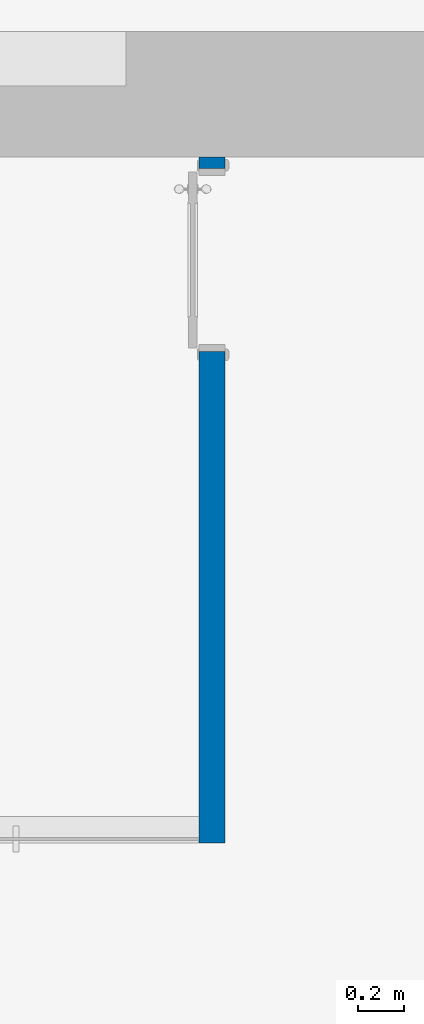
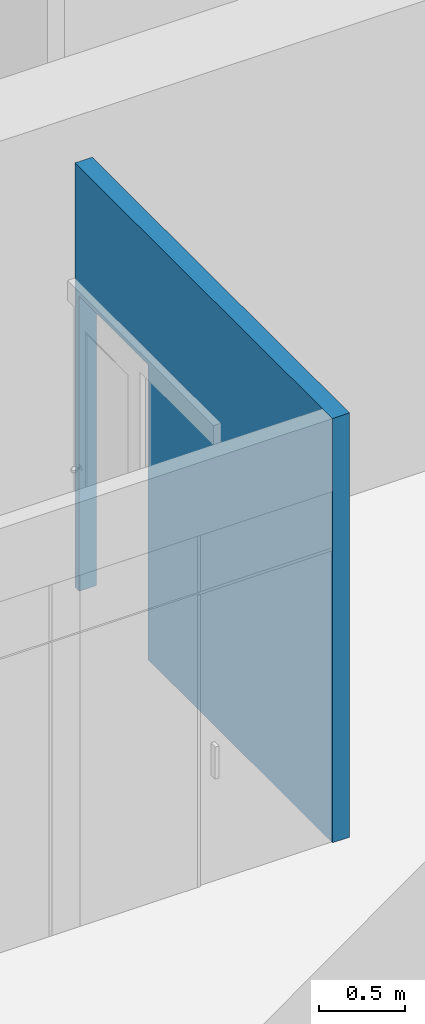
# One storey, part 23 of 49: 1 wall, 1 opening.
"""IFC2X3 building model written with IfcOpenShell, lengths in millimetres."""

import ifcopenshell
import ifcopenshell.guid

model = None  # the IFC model being written
_history = None  # IfcOwnerHistory: only IFC2X3 demands one
_inside = {}  # id of a spatial element -> (the spatial element, [elements in it])
_under = {}  # id of a project, library or spatial element -> (it, [spatial elements below it])
_declared = {}  # id of a project -> (the project, [libraries it declares])
_typed = {}  # id of a type object -> (the type object, [elements of that type])
_made_of = {}  # id of a material, layer set ... -> (it, [elements and type objects made of it])


def new_model(schema):
    """Start an empty IFC model of exactly this schema.

    Asked for "IFC4X3", IfcOpenShell would pick the latest addendum, in which some entities
    have other attributes; the version numbers below select the first issue.
    IFC2X3 requires an IfcOwnerHistory on every rooted entity: one is made here for all.
    """
    global model, _history
    if schema == "IFC4X3":
        model = ifcopenshell.file(schema_version=(4, 3, 0, 0))
    else:
        model = ifcopenshell.file(schema=schema)
    _inside.clear()
    _under.clear()
    _declared.clear()
    _typed.clear()
    _made_of.clear()
    _history = None
    if model.schema == "IFC2X3":
        org = make("IfcOrganization", Name="unknown")
        user = make(
            "IfcPersonAndOrganization",
            ThePerson=make("IfcPerson", FamilyName="unknown"),
            TheOrganization=org,
        )
        app = make(
            "IfcApplication",
            ApplicationDeveloper=org,
            Version="unknown",
            ApplicationFullName="unknown",
            ApplicationIdentifier="unknown",
        )
        _history = make(
            "IfcOwnerHistory",
            OwningUser=user,
            OwningApplication=app,
            ChangeAction="ADDED",
            CreationDate=0,
        )
    return model


def make(cls, **values):
    """One entity of the class cls with the attributes given. An attribute that is None is left unset."""
    return model.create_entity(
        cls, **{name: value for name, value in values.items() if value is not None}
    )


def entity(cls, *values):
    """Any entity or typed value of the class cls, its attributes in the order of the schema. None: left unset."""
    e = model.create_entity(cls)
    for i, value in enumerate(values):
        if value is not None:
            e[i] = value
    return e


def rooted(cls, **values):
    """An entity with a GlobalId (a new one), such as an element, a storey or a relation."""
    return make(cls, GlobalId=ifcopenshell.guid.new(), OwnerHistory=_history, **values)


def si_unit(unit_type, name, prefix=None):
    """IfcSIUnit, for example si_unit("LENGTHUNIT", "METRE", prefix="MILLI")."""
    return make("IfcSIUnit", UnitType=unit_type, Prefix=prefix, Name=name)


def converted_unit(unit_type, name, factor, base, dimensions=None, offset=None):
    """IfcConversionBasedUnit, such as the inch: factor (a typed value) times the base unit."""
    return make(
        "IfcConversionBasedUnit"
        if offset is None
        else "IfcConversionBasedUnitWithOffset",
        ConversionOffset=offset,
        Dimensions=None
        if dimensions is None
        else entity("IfcDimensionalExponents", *dimensions),
        UnitType=unit_type,
        Name=name,
        ConversionFactor=make(
            "IfcMeasureWithUnit", ValueComponent=factor, UnitComponent=base
        ),
    )


def derived_unit(unit_type, elements):
    """IfcDerivedUnit: a product of units, each with its exponent."""
    return make(
        "IfcDerivedUnit",
        Elements=[
            make("IfcDerivedUnitElement", Unit=unit, Exponent=power)
            for unit, power in elements
        ],
        UnitType=unit_type,
    )


def assignment(units):
    """IfcUnitAssignment: the units of a project."""
    return None if units is None else make("IfcUnitAssignment", Units=units)


def point(xyz):
    """IfcCartesianPoint."""
    return None if xyz is None else make("IfcCartesianPoint", Coordinates=xyz)


def direction(xyz):
    """IfcDirection."""
    return None if xyz is None else make("IfcDirection", DirectionRatios=xyz)


def frame(location, z_axis=None, x_axis=None):
    """IfcAxis2Placement3D, a coordinate frame: its origin and axes. An axis left out is left unset."""
    return make(
        "IfcAxis2Placement3D",
        Location=point(location),
        Axis=direction(z_axis),
        RefDirection=direction(x_axis),
    )


def frame_2d(location, x_axis=None):
    """IfcAxis2Placement2D, a coordinate frame in the plane: its origin and x axis."""
    return make(
        "IfcAxis2Placement2D", Location=point(location), RefDirection=direction(x_axis)
    )


def origin():
    """The frame at (0, 0, 0) with its axes left unset."""
    return frame((0.0, 0.0, 0.0))


def place(relative_to, where):
    """IfcLocalPlacement: puts the frame where relative to a parent placement (None: the world)."""
    return make(
        "IfcLocalPlacement", PlacementRelTo=relative_to, RelativePlacement=where
    )


def context(
    kind, dimensions, precision=None, world=None, true_north=None, identifier=None
):
    """IfcGeometricRepresentationContext, for example the 3D "Model" context."""
    return make(
        "IfcGeometricRepresentationContext",
        ContextIdentifier=identifier,
        ContextType=kind,
        CoordinateSpaceDimension=dimensions,
        Precision=precision,
        WorldCoordinateSystem=world,
        TrueNorth=true_north,
    )


def subcontext(parent, identifier, kind, view, scale=None):
    """IfcGeometricRepresentationSubContext, for example "Body" below "Model"."""
    return make(
        "IfcGeometricRepresentationSubContext",
        ContextIdentifier=identifier,
        ContextType=kind,
        ParentContext=parent,
        TargetScale=scale,
        TargetView=view,
    )


def project(units=None, contexts=None):
    """IfcProject with its units and contexts."""
    return rooted(
        "IfcProject",
        Name="project",
        RepresentationContexts=contexts,
        UnitsInContext=assignment(units),
    )


def spatial(cls, under=None, at=None, **own):
    """A site, building, storey or space (cls), placed at a placement, below another one or the project."""
    s = rooted(cls, ObjectPlacement=at, **own)
    if under is not None:
        _under.setdefault(under.id(), (under, []))[1].append(s)
    return s


def profile(cls, at=None, kind="AREA", **sizes):
    """A parametric profile (cls). Its sizes go by their IFC names, for example OverallWidth=200.0."""
    return make(cls, ProfileType=kind, Position=at, **sizes)


def rectangle(**sizes):
    """IfcRectangleProfileDef."""
    return profile("IfcRectangleProfileDef", **sizes)


def extrude(swept, where, along, depth):
    """IfcExtrudedAreaSolid: the profile swept, set in the frame where, extruded along a direction by depth."""
    return make(
        "IfcExtrudedAreaSolid",
        SweptArea=swept,
        Position=where,
        ExtrudedDirection=direction(along),
        Depth=depth,
    )


def shape(context_of_items, identifier, shape_type, items):
    """IfcShapeRepresentation: the items that make up one representation, for example the "Body"."""
    return make(
        "IfcShapeRepresentation",
        ContextOfItems=context_of_items,
        RepresentationIdentifier=identifier,
        RepresentationType=shape_type,
        Items=items,
    )


def material(Name=None, Category=None):
    """IfcMaterial."""
    return make("IfcMaterial", Name=Name, Category=Category)


def layer(
    of_material, thickness, ventilated=None, Name=None, Category=None, Priority=None
):
    """IfcMaterialLayer: one layer of a wall or slab, of a material (None: an air gap)."""
    return make(
        "IfcMaterialLayer",
        Material=of_material,
        LayerThickness=thickness,
        IsVentilated=ventilated,
        Name=Name,
        Category=Category,
        Priority=Priority,
    )


def layer_set(layers, Name=None):
    """IfcMaterialLayerSet."""
    return make("IfcMaterialLayerSet", MaterialLayers=layers, LayerSetName=Name)


def layer_usage(for_layer_set, set_direction, sense, offset, extent=None):
    """IfcMaterialLayerSetUsage: how a layer set lies in its element."""
    return make(
        "IfcMaterialLayerSetUsage",
        ForLayerSet=for_layer_set,
        LayerSetDirection=set_direction,
        DirectionSense=sense,
        OffsetFromReferenceLine=offset,
        ReferenceExtent=extent,
    )


def made_of(thing, what):
    """Note that an element or type object is made of a material, layer set ...; save() writes the relation."""
    if what is not None:
        _made_of.setdefault(what.id(), (what, []))[1].append(thing)
    return thing


def type_object(cls, material=None, **own):
    """A type object (cls), such as IfcWallType, which elements share."""
    return made_of(rooted(cls, **own), material)


def element(
    cls,
    number,
    at=None,
    inside=None,
    cuts=None,
    type_object=None,
    material=None,
    context=None,
    identifier="Body",
    shape_type=None,
    held_by="IfcProductDefinitionShape",
    body=None,
    shapes=None,
    **own,
):
    """One element of the class cls, such as IfcWall. Its Tag is "e" and its number.

    at: its placement. inside: the storey or other place that contains it. cuts: it is an
    opening in that element (IfcRelVoidsElement). A single representation is given by context,
    identifier, shape_type and body (its items); several are given by shapes. held_by: the class
    of the entity that holds the representations. save() writes the other relations.
    """
    e = rooted(cls, Tag="e%d" % number, ObjectPlacement=at, **own)
    if body is not None:
        shapes = [shape(context, identifier, shape_type, body)]
    if shapes is not None:
        e.Representation = make(held_by, Representations=shapes)
    if inside is not None:
        _inside.setdefault(inside.id(), (inside, []))[1].append(e)
    if cuts is not None:
        rooted(
            "IfcRelVoidsElement", RelatingBuildingElement=cuts, RelatedOpeningElement=e
        )
    if type_object is not None:
        _typed.setdefault(type_object.id(), (type_object, []))[1].append(e)
    return made_of(e, material)


def aggregate(whole, parts):
    """IfcRelAggregates: a whole, such as a stair, and the parts it consists of."""
    return rooted("IfcRelAggregates", RelatingObject=whole, RelatedObjects=parts)


def save(model, path):
    """Write the relations noted so far, then the file.

    IfcRelAggregates (storeys below a building ...), IfcRelContainedInSpatialStructure (elements
    in a storey), IfcRelDefinesByType, IfcRelAssociatesMaterial and IfcRelDeclares: one each for
    every whole, place, type object, material and project.
    """
    for whole, parts in _under.values():
        aggregate(whole, parts)
    for where, things in _inside.values():
        rooted(
            "IfcRelContainedInSpatialStructure",
            RelatedElements=things,
            RelatingStructure=where,
        )
    for kind, things in _typed.values():
        rooted("IfcRelDefinesByType", RelatedObjects=things, RelatingType=kind)
    for what, things in _made_of.values():
        rooted("IfcRelAssociatesMaterial", RelatedObjects=things, RelatingMaterial=what)
    for by, libraries in _declared.values():
        rooted("IfcRelDeclares", RelatingContext=by, RelatedDefinitions=libraries)
    model.write(path)


model = new_model("IFC2X3")

# Units and contexts
model_context = context("Model", 3, precision=0.01, world=origin(), true_north=direction((6.12303176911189e-17, 1.0)))
body_context = subcontext(model_context, "Body", "Model", "MODEL_VIEW")
ifc_project = project(units=[si_unit("LENGTHUNIT", "METRE", prefix="MILLI"), si_unit("AREAUNIT", "SQUARE_METRE"), si_unit("VOLUMEUNIT", "CUBIC_METRE"), converted_unit("PLANEANGLEUNIT", "DEGREE", entity("IfcRatioMeasure", 0.0174532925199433), si_unit("PLANEANGLEUNIT", "RADIAN"), dimensions=[0, 0, 0, 0, 0, 0, 0]), si_unit("MASSUNIT", "GRAM", prefix="KILO"), derived_unit("MASSDENSITYUNIT", [(si_unit("MASSUNIT", "GRAM", prefix="KILO"), 1), (si_unit("LENGTHUNIT", "METRE"), -3)]), si_unit("TIMEUNIT", "SECOND"), si_unit("FREQUENCYUNIT", "HERTZ"), si_unit("THERMODYNAMICTEMPERATUREUNIT", "DEGREE_CELSIUS"), derived_unit("THERMALTRANSMITTANCEUNIT", [(si_unit("MASSUNIT", "GRAM", prefix="KILO"), 1), (si_unit("THERMODYNAMICTEMPERATUREUNIT", "KELVIN"), -1), (si_unit("TIMEUNIT", "SECOND"), -3)]), derived_unit("VOLUMETRICFLOWRATEUNIT", [(si_unit("LENGTHUNIT", "METRE"), 3), (si_unit("TIMEUNIT", "SECOND"), -1)]), si_unit("ELECTRICCURRENTUNIT", "AMPERE"), si_unit("ELECTRICVOLTAGEUNIT", "VOLT"), si_unit("POWERUNIT", "WATT"), si_unit("FORCEUNIT", "NEWTON", prefix="KILO"), si_unit("ILLUMINANCEUNIT", "LUX"), si_unit("LUMINOUSFLUXUNIT", "LUMEN"), si_unit("LUMINOUSINTENSITYUNIT", "CANDELA"), derived_unit("USERDEFINED", [(si_unit("MASSUNIT", "GRAM", prefix="KILO"), -1), (si_unit("LENGTHUNIT", "METRE"), -2), (si_unit("TIMEUNIT", "SECOND"), 3), (si_unit("LUMINOUSFLUXUNIT", "LUMEN"), 1)]), derived_unit("LINEARVELOCITYUNIT", [(si_unit("LENGTHUNIT", "METRE"), 1), (si_unit("TIMEUNIT", "SECOND"), -1)]), si_unit("PRESSUREUNIT", "PASCAL"), derived_unit("USERDEFINED", [(si_unit("LENGTHUNIT", "METRE"), -2), (si_unit("MASSUNIT", "GRAM", prefix="KILO"), 1), (si_unit("TIMEUNIT", "SECOND"), -2)])], contexts=[model_context])

# Site, building, storey
site_placement = place(None, frame((-151.875543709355, 2715.0, 0.0)))
site = spatial("IfcSite", under=ifc_project, at=site_placement, Name="Surface", CompositionType="ELEMENT")
building_placement = place(site_placement, origin())
building = spatial("IfcBuilding", under=site, at=building_placement, CompositionType="ELEMENT")
storey_placement = place(building_placement, origin())
storey = spatial("IfcBuildingStorey", under=building, at=storey_placement, Name="1 korrus", CompositionType="ELEMENT", Elevation=3.0969999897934e-10)

# Wall, opening
ifc_material_1 = material(Name="__Kips GN13_tava")
ifc_layer_1 = layer(ifc_material_1, 12.5)
ifc_layer_2 = layer(ifc_material_1, 12.5)
ifc_material_2 = material(Name="__Soojustus EPS")
ifc_layer_3 = layer(ifc_material_2, 66.0)
ifc_layer_4 = layer(ifc_material_1, 12.5)
ifc_layer_5 = layer(ifc_material_1, 12.5)
ifc_layer_set = layer_set([ifc_layer_1, ifc_layer_2, ifc_layer_3, ifc_layer_4, ifc_layer_5], Name="Basic Wall:SS-3_Kipssein tava ruumide vahel")
ifc_layer_usage = layer_usage(ifc_layer_set, "AXIS2", "POSITIVE", -58.0)
wall_type = type_object("IfcWallType", Name="Basic Wall:SS-3_Kipssein tava ruumide vahel", PredefinedType="STANDARD", material=ifc_layer_set)
wall_placement = place(storey_placement, frame((19712.2710850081, 3007.49999999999, 0.0), z_axis=(0.0, 0.0, 1.0), x_axis=(0.0, 1.0, 0.0)))
wall = element("IfcWallStandardCase", 1, at=wall_placement, inside=storey, type_object=wall_type, material=ifc_layer_usage, Name="Basic Wall:SS-3_Kipssein tava ruumide vahel", ObjectType="Basic Wall:SS-3_Kipssein tava ruumide vahel", context=body_context, shape_type="SweptSolid", body=[
    extrude(rectangle(XDim=3002.49999999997, YDim=116.0, at=frame_2d((1501.24999999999, -9.2015284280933e-13), x_axis=(-1.0, 0.0))), origin(), (0.0, 0.0, 1.0), 3020.0),
])
opening_placement = place(wall_placement, frame((2152.49999999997, -58.0, 0.0)))
element("IfcOpeningElement", 2, at=opening_placement, cuts=wall, Name="Lükanduks:SU-18:1", ObjectType="Opening", context=body_context, shape_type="SweptSolid", body=[
    extrude(rectangle(XDim=2099.99999999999, YDim=800.0, at=frame_2d((1049.99999999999, 400.0), x_axis=(1.0, 0.0))), frame((0.0, 0.0, 0.0), z_axis=(0.0, 1.0, 0.0), x_axis=(0.0, 0.0, 1.0)), (0.0, 0.0, 1.0), 116.0),
])

save(model, "model.ifc")
